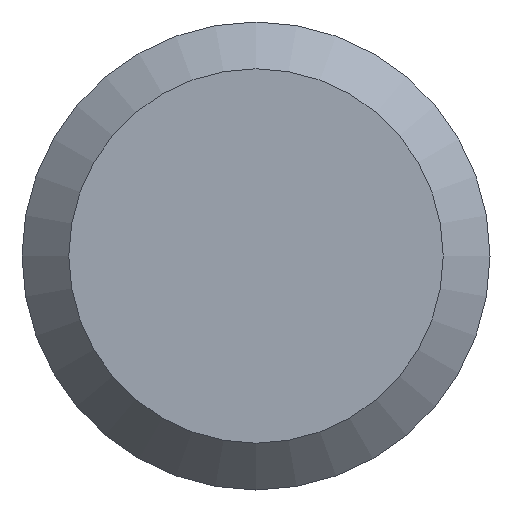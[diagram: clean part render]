
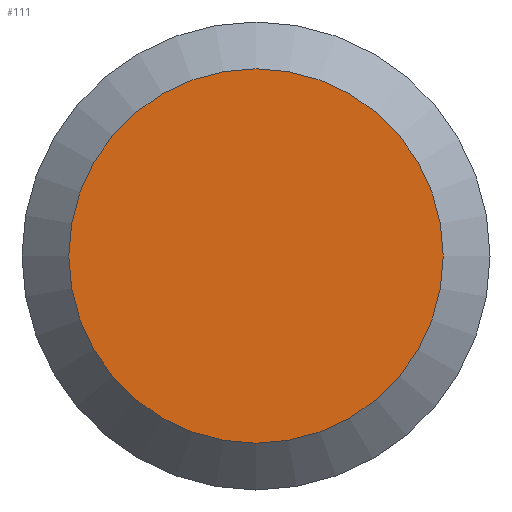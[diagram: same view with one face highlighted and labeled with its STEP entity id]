
A CAD part, left-side view. The second image highlights one B-rep face of the part: STEP entity #111.
In plain terms, the highlighted planar face has unit normal (-1, 0, 0).
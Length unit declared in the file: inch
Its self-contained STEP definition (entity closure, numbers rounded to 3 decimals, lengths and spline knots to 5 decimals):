
#2 = DIRECTION ( 'NONE',  ( 0., 0., -1. ) ) ;
#14 = DIRECTION ( 'NONE',  ( -1., 0., 0. ) ) ;
#44 = DIRECTION ( 'NONE',  ( 0., 0., -1. ) ) ;
#54 = VERTEX_POINT ( 'NONE', #87 ) ;
#71 = DIRECTION ( 'NONE',  ( 1., 0., 0. ) ) ;
#85 = CARTESIAN_POINT ( 'NONE',  ( 0., 0.1695, 0. ) ) ;
#87 = CARTESIAN_POINT ( 'NONE',  ( 0., 0., -0.1356 ) ) ;
#100 = EDGE_CURVE ( 'NONE', #54, #54, #137, .T. ) ;
#104 = ORIENTED_EDGE ( 'NONE', *, *, #100, .T. ) ;
#111 = ADVANCED_FACE ( 'NONE', ( #203 ), #153, .F. ) ;
#137 = CIRCLE ( 'NONE', #228, 0.1356 ) ;
#153 = PLANE ( 'NONE',  #156 ) ;
#156 = AXIS2_PLACEMENT_3D ( 'NONE', #85, #71, #44 ) ;
#203 = FACE_OUTER_BOUND ( 'NONE', #207, .T. ) ;
#207 = EDGE_LOOP ( 'NONE', ( #104 ) ) ;
#209 = CARTESIAN_POINT ( 'NONE',  ( 0., 0., 0. ) ) ;
#228 = AXIS2_PLACEMENT_3D ( 'NONE', #209, #14, #2 ) ;
